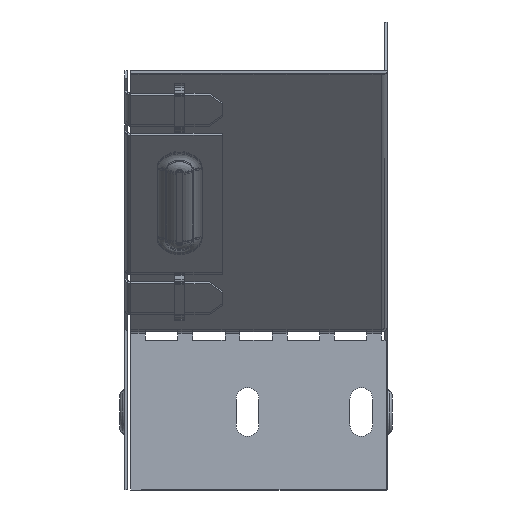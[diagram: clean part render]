
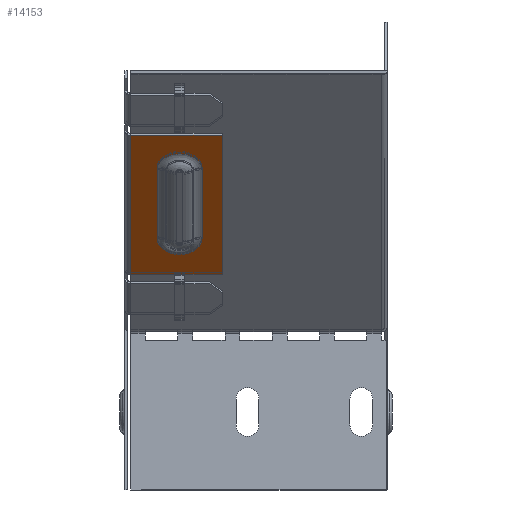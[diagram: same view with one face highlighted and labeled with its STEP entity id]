
A CAD part, left-side view. The second image highlights one B-rep face of the part: STEP entity #14153.
In plain terms, the highlighted planar face has unit normal (-0.707, 0, -0.707).
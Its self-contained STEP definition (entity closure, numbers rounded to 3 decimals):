
#119 = ORIENTED_EDGE ( 'NONE', *, *, #2777, .T. ) ;
#992 = VECTOR ( 'NONE', #12512, 1000. ) ;
#1280 = LINE ( 'NONE', #15865, #992 ) ;
#1295 = LINE ( 'NONE', #4620, #18869 ) ;
#2211 = LINE ( 'NONE', #12679, #16313 ) ;
#2609 = LINE ( 'NONE', #11118, #17555 ) ;
#2777 = EDGE_CURVE ( 'NONE', #14137, #21344, #1280, .T. ) ;
#3898 = CARTESIAN_POINT ( 'NONE',  ( -211.823, 50., -34.855 ) ) ;
#4568 = VECTOR ( 'NONE', #15997, 1000. ) ;
#4580 = DIRECTION ( 'NONE',  ( 0.5, -0.707, -0.5 ) ) ;
#4620 = CARTESIAN_POINT ( 'NONE',  ( -228.087, 78.2, -18.591 ) ) ;
#5649 = VERTEX_POINT ( 'NONE', #9340 ) ;
#5781 = ORIENTED_EDGE ( 'NONE', *, *, #16268, .T. ) ;
#6304 = VECTOR ( 'NONE', #15173, 1000. ) ;
#6516 = CARTESIAN_POINT ( 'NONE',  ( -169.022, 78.2, -77.656 ) ) ;
#6582 = FACE_BOUND ( 'NONE', #12017, .T. ) ;
#7272 = CARTESIAN_POINT ( 'NONE',  ( -115.837, 80., -130.841 ) ) ;
#7488 = DIRECTION ( 'NONE',  ( -0.707, 0., 0.707 ) ) ;
#7528 = ORIENTED_EDGE ( 'NONE', *, *, #20880, .F. ) ;
#7534 = CARTESIAN_POINT ( 'NONE',  ( -179.993, 56.183, -66.685 ) ) ;
#7639 = VERTEX_POINT ( 'NONE', #19284 ) ;
#7908 = LINE ( 'NONE', #8338, #6304 ) ;
#8338 = CARTESIAN_POINT ( 'NONE',  ( -179.993, 56.183, -66.685 ) ) ;
#8489 = ORIENTED_EDGE ( 'NONE', *, *, #14637, .T. ) ;
#9340 = CARTESIAN_POINT ( 'NONE',  ( -179.993, 70.017, -66.685 ) ) ;
#9757 = CARTESIAN_POINT ( 'NONE',  ( -211.823, 78.2, -34.855 ) ) ;
#9851 = EDGE_CURVE ( 'NONE', #15108, #16337, #15501, .T. ) ;
#10260 = FACE_OUTER_BOUND ( 'NONE', #15767, .T. ) ;
#10610 = CIRCLE ( 'NONE', #11585, 6.917 ) ;
#11118 = CARTESIAN_POINT ( 'NONE',  ( -179.993, 70.017, -66.685 ) ) ;
#11218 = CARTESIAN_POINT ( 'NONE',  ( -201.206, 56.183, -45.472 ) ) ;
#11585 = AXIS2_PLACEMENT_3D ( 'NONE', #20255, #18231, #4580 ) ;
#12017 = EDGE_LOOP ( 'NONE', ( #5781, #8489, #19135, #17907 ) ) ;
#12085 = CIRCLE ( 'NONE', #20975, 6.917 ) ;
#12283 = CARTESIAN_POINT ( 'NONE',  ( -169.022, 50., -77.656 ) ) ;
#12512 = DIRECTION ( 'NONE',  ( 0., 1., 0. ) ) ;
#12679 = CARTESIAN_POINT ( 'NONE',  ( -115.837, 50., -130.841 ) ) ;
#13127 = VERTEX_POINT ( 'NONE', #7534 ) ;
#13607 = VERTEX_POINT ( 'NONE', #11218 ) ;
#13820 = CARTESIAN_POINT ( 'NONE',  ( -169.022, 50., -77.656 ) ) ;
#14137 = VERTEX_POINT ( 'NONE', #3898 ) ;
#14153 = ADVANCED_FACE ( 'NONE', ( #6582, #10260 ), #14165, .F. ) ;
#14165 = PLANE ( 'NONE',  #14827 ) ;
#14637 = EDGE_CURVE ( 'NONE', #13127, #5649, #12085, .T. ) ;
#14827 = AXIS2_PLACEMENT_3D ( 'NONE', #7272, #20888, #15584 ) ;
#15108 = VERTEX_POINT ( 'NONE', #6516 ) ;
#15173 = DIRECTION ( 'NONE',  ( 0.707, 0., -0.707 ) ) ;
#15342 = EDGE_CURVE ( 'NONE', #16337, #14137, #2211, .T. ) ;
#15501 = LINE ( 'NONE', #12283, #4568 ) ;
#15584 = DIRECTION ( 'NONE',  ( 0.707, 0., -0.707 ) ) ;
#15767 = EDGE_LOOP ( 'NONE', ( #7528, #19468, #19234, #119 ) ) ;
#15865 = CARTESIAN_POINT ( 'NONE',  ( -211.823, 50., -34.855 ) ) ;
#15997 = DIRECTION ( 'NONE',  ( 0., -1., 0. ) ) ;
#16268 = EDGE_CURVE ( 'NONE', #13607, #13127, #7908, .T. ) ;
#16313 = VECTOR ( 'NONE', #21326, 1000. ) ;
#16337 = VERTEX_POINT ( 'NONE', #13820 ) ;
#17555 = VECTOR ( 'NONE', #7488, 1000. ) ;
#17907 = ORIENTED_EDGE ( 'NONE', *, *, #18516, .T. ) ;
#18154 = DIRECTION ( 'NONE',  ( 0.5, -0.707, -0.5 ) ) ;
#18181 = DIRECTION ( 'NONE',  ( -0.707, 0., 0.707 ) ) ;
#18231 = DIRECTION ( 'NONE',  ( 0.707, 0., 0.707 ) ) ;
#18516 = EDGE_CURVE ( 'NONE', #7639, #13607, #10610, .T. ) ;
#18869 = VECTOR ( 'NONE', #18181, 1000. ) ;
#18972 = EDGE_CURVE ( 'NONE', #5649, #7639, #2609, .T. ) ;
#19135 = ORIENTED_EDGE ( 'NONE', *, *, #18972, .T. ) ;
#19234 = ORIENTED_EDGE ( 'NONE', *, *, #15342, .T. ) ;
#19284 = CARTESIAN_POINT ( 'NONE',  ( -201.206, 70.017, -45.472 ) ) ;
#19468 = ORIENTED_EDGE ( 'NONE', *, *, #9851, .T. ) ;
#20255 = CARTESIAN_POINT ( 'NONE',  ( -201.206, 63.1, -45.472 ) ) ;
#20880 = EDGE_CURVE ( 'NONE', #15108, #21344, #1295, .T. ) ;
#20888 = DIRECTION ( 'NONE',  ( 0.707, 0., 0.707 ) ) ;
#20975 = AXIS2_PLACEMENT_3D ( 'NONE', #21358, #21595, #18154 ) ;
#21326 = DIRECTION ( 'NONE',  ( -0.707, 0., 0.707 ) ) ;
#21344 = VERTEX_POINT ( 'NONE', #9757 ) ;
#21358 = CARTESIAN_POINT ( 'NONE',  ( -179.993, 63.1, -66.685 ) ) ;
#21595 = DIRECTION ( 'NONE',  ( 0.707, 0., 0.707 ) ) ;
